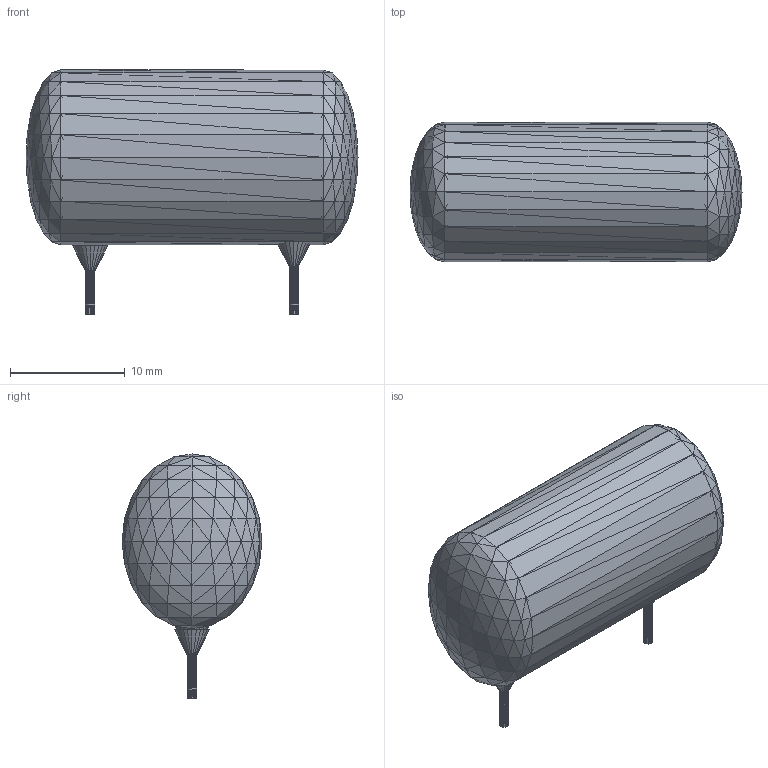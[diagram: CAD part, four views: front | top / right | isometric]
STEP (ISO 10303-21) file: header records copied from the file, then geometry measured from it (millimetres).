
FILE_DESCRIPTION(('HOOPS Exchange Step'),'2;1');
FILE_NAME('***.stp');
FILE_SCHEMA( ('AP242_MANAGED_MODEL_BASED_3D_ENGINEERING_MIM_LF {1 0 10303 442 1 1 4 }') );
Length unit declared in the file: inch
Products named in the file (8): CAPORGLGNF_2; CAPORGLGNF_3; CAPORGLGNF_4; CAPORGLGNF_5; CAPORGLGNF_6; CAPORGLGNF_7; CAPORGLGNF_8; CAPORGLGNF
Assembly tree (7 placements, depth 2):
  CAPORGLGNF
    CAPORGLGNF_2
    CAPORGLGNF_3
    CAPORGLGNF_4
    CAPORGLGNF_5
    CAPORGLGNF_6
    CAPORGLGNF_7
    CAPORGLGNF_8
Bounding box: 28.96 x 12.19 x 21.29 mm (x, y, z)
Surface area: 4213.4 mm2 (no closed solid volume)
Topology: 0 solids, 1920 shells, 1920 faces, 1440 edges, 494 vertices
Faces by surface type: plane 1920
Entity records: 29644 total; most frequent: ORIENTED_EDGE 5760, DIRECTION 5312, CARTESIAN_POINT 3870, AXIS2_PLACEMENT_3D 1936, PLANE 1920, EDGE_LOOP 1920, FACE_BOUND 1920, ADVANCED_FACE 1920
